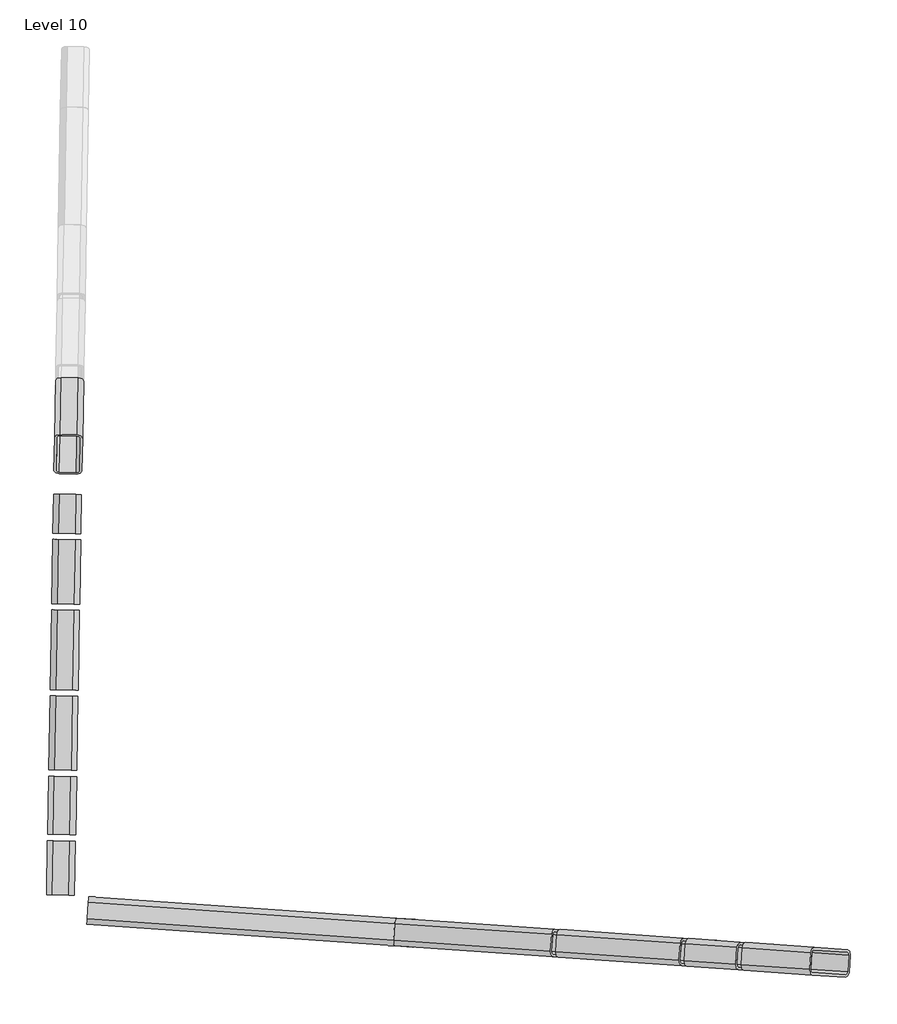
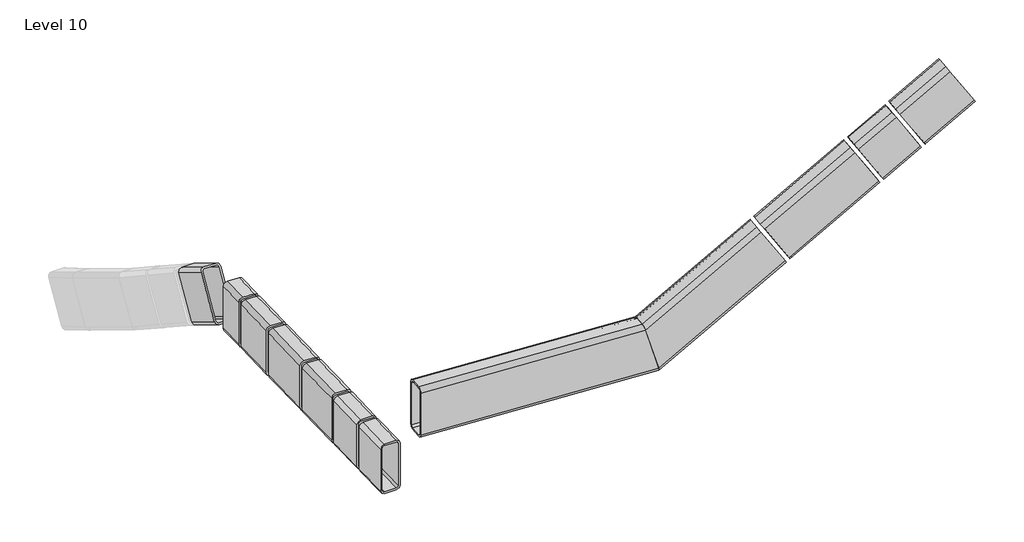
# One storey, part 1 of 2: 12 beams.
"""IFC4 building model written with IfcOpenShell, lengths in millimetres."""

from ifc_helpers import new_model, si_unit, frame, origin, place, context, project, spatial, polyline, circle_curve, ellipse_curve, transform, mapped, element, save
from ifc_brep_helpers import plane_surface, cylinder_surface, revolved_surface, advanced_brep
from components import rectangular_and_square_hollow_sections_a0dfe2d4, rectangular_and_square_hollow_sections_1cc8ef98, rectangular_and_square_hollow_sections_1d99fe36, rectangular_and_square_hollow_sections_aa6a9ac2, rectangular_and_square_hollow_sections_f138f567, rectangular_and_square_hollow_sections_edb9c2be, rectangular_and_square_hollow_sections_93e47c89, rectangular_and_square_hollow_sections_a68c0d95, rectangular_and_square_hollow_sections_c9b4ccbb, rectangular_and_square_hollow_sections_d00a390d

model = new_model("IFC4")

# Units and contexts
model_context = context("Model", 3, world=origin())
ifc_project = project(units=[si_unit("LENGTHUNIT", "METRE", prefix="MILLI")], contexts=[model_context])

# Site, building, storey
site = spatial("IfcSite", under=ifc_project)
building = spatial("IfcBuilding", under=site)
storey = spatial("IfcBuildingStorey", under=building, Name="Level 10", Elevation=289.0)

# Beams
placement = place(None, origin())
element("IfcBeam", 1, ObjectType="Rectangular and Square Hollow Sections : TREC160x60x6", at=placement, inside=storey, context=model_context, shape_type="AdvancedBrep", body=[
    advanced_brep(
    [(-746.6505809, -1195.0471365, 565.589493), (-745.8135033, -1183.0763679, 577.589493), (-743.3022702, -1147.1640621, 577.589493), (-742.4651925, -1135.1932935, 565.589493), (-742.4651925, -1135.1932935, 429.589493), (-743.3022702, -1147.1640621, 417.589493), (-745.8135033, -1183.0763679, 417.589493), (-746.6505809, -1195.0471365, 429.589493), (-743.3022702, -1147.1640621, 571.589493), (-745.8135033, -1183.0763679, 571.589493), (-746.2320421, -1189.0617522, 565.589493), (-746.2320421, -1189.0617522, 429.589493), (-745.8135033, -1183.0763679, 423.589493), (-743.3022702, -1147.1640621, 423.589493), (-742.8837314, -1141.1786778, 429.589493), (-742.8837314, -1141.1786778, 565.589493), (-85.3405322, -1241.29044, 565.589493), (-87.9360171, -1229.0796433, 577.589493), (-85.4247841, -1193.1673375, 577.589493), (-81.1551437, -1181.436597, 565.589493), (-42.252767, -1184.1569162, 429.589493), (-39.657282, -1196.367713, 417.589493), (-42.1685151, -1232.2800188, 417.589493), (-46.4381554, -1244.0107592, 429.589493), (-83.7085028, -1193.2873515, 571.589493), (-86.2197358, -1229.1996573, 571.589493), (-84.9219933, -1235.3050557, 565.589493), (-46.0196166, -1238.0253749, 429.589493), (-43.8847964, -1232.1600047, 423.589493), (-41.3735634, -1196.2476989, 423.589493), (-42.6713059, -1190.1423005, 429.589493), (-81.5736826, -1187.4219813, 565.589493)],
    [
        (0, 1, circle_curve(frame((-745.8135033, -1183.0763679, 565.589493), z_axis=(-0.997564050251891, 0.0697564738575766, 0.0), x_axis=(0.0697564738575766, 0.997564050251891, 0.0)), 12.0)),
        (1, 2),
        (2, 3, circle_curve(frame((-743.3022702, -1147.1640621, 565.589493), z_axis=(-0.997564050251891, 0.0697564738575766, 0.0), x_axis=(0.0697564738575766, 0.997564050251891, 0.0)), 12.0)),
        (3, 4),
        (4, 5, circle_curve(frame((-743.3022702, -1147.1640621, 429.589493), z_axis=(-0.997564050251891, 0.0697564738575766, 0.0), x_axis=(0.0697564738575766, 0.997564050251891, 0.0)), 12.0)),
        (5, 6),
        (6, 7, circle_curve(frame((-745.8135033, -1183.0763679, 429.589493), z_axis=(-0.997564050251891, 0.0697564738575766, 0.0), x_axis=(0.0697564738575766, 0.997564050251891, 0.0)), 12.0)),
        (7, 0),
        (8, 9),
        (9, 10, circle_curve(frame((-745.8135033, -1183.0763679, 565.589493), z_axis=(0.997564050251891, -0.0697564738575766, 0.0), x_axis=(0.0697564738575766, 0.997564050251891, 0.0)), 6.0)),
        (10, 11),
        (11, 12, circle_curve(frame((-745.8135033, -1183.0763679, 429.589493), z_axis=(0.997564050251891, -0.0697564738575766, 0.0), x_axis=(0.0697564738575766, 0.997564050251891, 0.0)), 6.0)),
        (12, 13),
        (13, 14, circle_curve(frame((-743.3022702, -1147.1640621, 429.589493), z_axis=(0.997564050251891, -0.0697564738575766, 0.0), x_axis=(0.0697564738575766, 0.997564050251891, 0.0)), 6.0)),
        (14, 15),
        (15, 8, circle_curve(frame((-743.3022702, -1147.1640621, 565.589493), z_axis=(0.997564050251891, -0.0697564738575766, 0.0), x_axis=(0.0697564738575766, 0.997564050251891, 0.0)), 6.0)),
        (0, 16),
        (16, 17, ellipse_curve(frame((-84.5034545, -1229.3196714, 565.589493), z_axis=(-0.9589201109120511, 0.06705422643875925, -0.2756373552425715), x_axis=(-0.27496591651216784, 0.01922748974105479, 0.9612616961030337)), 12.4835932, 12.0)),
        (17, 1),
        (17, 18),
        (18, 2),
        (18, 19, ellipse_curve(frame((-81.9922214, -1193.4073656, 565.589493), z_axis=(-0.9589201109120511, 0.06705422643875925, -0.2756373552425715), x_axis=(-0.27496591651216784, 0.01922748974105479, 0.9612616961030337)), 12.4835932, 12.0)),
        (19, 3),
        (19, 20),
        (20, 4),
        (20, 21, ellipse_curve(frame((-43.0898447, -1196.1276848, 429.589493), z_axis=(-0.9589201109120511, 0.06705422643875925, -0.2756373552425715), x_axis=(-0.27496591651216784, 0.01922748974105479, 0.9612616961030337)), 12.4835932, 12.0)),
        (21, 5),
        (21, 22),
        (22, 6),
        (22, 23, ellipse_curve(frame((-45.6010778, -1232.0399906, 429.589493), z_axis=(-0.9589201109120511, 0.06705422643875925, -0.2756373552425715), x_axis=(-0.27496591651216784, 0.01922748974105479, 0.9612616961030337)), 12.4835932, 12.0)),
        (23, 7),
        (23, 16),
        (8, 24),
        (24, 25),
        (25, 9),
        (25, 26, ellipse_curve(frame((-84.5034545, -1229.3196714, 565.589493), z_axis=(0.9589201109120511, -0.06705422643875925, 0.2756373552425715), x_axis=(0.27496591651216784, -0.01922748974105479, -0.9612616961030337)), 6.2417966, 6.0)),
        (26, 10),
        (26, 27),
        (27, 11),
        (27, 28, ellipse_curve(frame((-45.6010778, -1232.0399906, 429.589493), z_axis=(0.9589201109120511, -0.06705422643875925, 0.2756373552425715), x_axis=(0.27496591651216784, -0.01922748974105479, -0.9612616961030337)), 6.2417966, 6.0)),
        (28, 12),
        (28, 29),
        (29, 13),
        (29, 30, ellipse_curve(frame((-43.0898447, -1196.1276848, 429.589493), z_axis=(0.9589201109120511, -0.06705422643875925, 0.2756373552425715), x_axis=(0.27496591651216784, -0.01922748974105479, -0.9612616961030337)), 6.2417966, 6.0)),
        (30, 14),
        (30, 31),
        (31, 15),
        (31, 24, ellipse_curve(frame((-81.9922214, -1193.4073656, 565.589493), z_axis=(0.9589201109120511, -0.06705422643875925, 0.2756373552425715), x_axis=(0.27496591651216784, -0.01922748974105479, -0.9612616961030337)), 6.2417966, 6.0)),
    ],
    [
        plane_surface(frame((-744.5578867, -1165.120215, 497.589493), z_axis=(-0.997564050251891, 0.0697564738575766, 0.0), x_axis=(0.0, 0.0, 1.0))),
        cylinder_surface(frame((-745.8135033, -1183.0763679, 565.589493), z_axis=(-0.997564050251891, 0.0697564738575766, 0.0), x_axis=(0.0697564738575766, 0.997564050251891, 0.0)), 12.0),
        plane_surface(frame((-745.8135033, -1183.0763679, 577.589493), z_axis=(0.0, 0.0, 1.0), x_axis=(0.997564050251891, -0.0697564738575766, 0.0))),
        cylinder_surface(frame((-743.3022702, -1147.1640621, 565.589493), z_axis=(-0.997564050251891, 0.0697564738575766, 0.0), x_axis=(0.0697564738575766, 0.997564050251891, 0.0)), 12.0),
        plane_surface(frame((-742.4651925, -1135.1932935, 565.589493), z_axis=(0.0697564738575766, 0.997564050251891, 0.0), x_axis=(0.997564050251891, -0.0697564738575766, 0.0))),
        cylinder_surface(frame((-743.3022702, -1147.1640621, 429.589493), z_axis=(-0.997564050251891, 0.0697564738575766, 0.0), x_axis=(0.0697564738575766, 0.997564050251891, 0.0)), 12.0),
        plane_surface(frame((-743.3022702, -1147.1640621, 417.589493), z_axis=(0.0, 0.0, -1.0), x_axis=(0.997564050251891, -0.0697564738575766, 0.0))),
        cylinder_surface(frame((-745.8135033, -1183.0763679, 429.589493), z_axis=(-0.997564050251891, 0.0697564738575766, 0.0), x_axis=(0.0697564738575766, 0.997564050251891, 0.0)), 12.0),
        plane_surface(frame((-746.6505809, -1195.0471365, 429.589493), z_axis=(-0.0697564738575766, -0.997564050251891, 0.0), x_axis=(0.997564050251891, -0.0697564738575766, 0.0))),
        plane_surface(frame((-743.3022702, -1147.1640621, 571.589493), z_axis=(0.0, 0.0, -1.0), x_axis=(0.997564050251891, -0.0697564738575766, 0.0))),
        revolved_surface(polyline([(-82.3686343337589, -1223.4543011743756, 565.589493), (-745.3949644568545, -1177.0909835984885, 565.589493)]), (-745.8135033, -1183.0763679, 565.589493), (0.997564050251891, -0.0697564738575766, 0.0)),
        plane_surface(frame((-746.2320421, -1189.0617522, 565.589493), z_axis=(0.0697564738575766, 0.997564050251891, 0.0), x_axis=(0.997564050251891, -0.0697564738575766, 0.0))),
        revolved_surface(polyline([(-43.466257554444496, -1226.1746203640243, 429.589493), (-745.3949644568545, -1177.0909835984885, 429.589493)]), (-745.8135033, -1183.0763679, 429.589493), (0.997564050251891, -0.0697564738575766, 0.0)),
        plane_surface(frame((-745.8135033, -1183.0763679, 423.589493), z_axis=(0.0, 0.0, 1.0), x_axis=(0.997564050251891, -0.0697564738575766, 0.0))),
        revolved_surface(polyline([(-40.9550245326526, -1190.2623145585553, 429.589493), (-742.8837313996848, -1141.1786777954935, 429.589493)]), (-743.3022702, -1147.1640621, 429.589493), (0.997564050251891, -0.0697564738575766, 0.0)),
        plane_surface(frame((-742.8837314, -1141.1786778, 429.589493), z_axis=(-0.0697564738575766, -0.997564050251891, 0.0), x_axis=(0.997564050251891, -0.0697564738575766, 0.0))),
        revolved_surface(polyline([(-79.85740123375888, -1187.5419953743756, 565.589493), (-742.8837313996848, -1141.1786777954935, 565.589493)]), (-743.3022702, -1147.1640621, 565.589493), (0.997564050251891, -0.0697564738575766, 0.0)),
        plane_surface(frame((-86.6804006, -1211.1234904, 577.589493), z_axis=(0.9589201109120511, -0.06705422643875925, 0.2756373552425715), x_axis=(0.2836762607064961, 0.22666558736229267, -0.9317459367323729))),
    ],
    [
        (0, [[1, 2, 3, 4, 5, 6, 7, 8], [9, 10, 11, 12, 13, 14, 15, 16]]),
        (1, [[-1, 17, 18, 19]]),
        (2, [[-2, -19, 20, 21]]),
        (3, [[-3, -21, 22, 23]]),
        (4, [[-4, -23, 24, 25]]),
        (5, [[-5, -25, 26, 27]]),
        (6, [[-6, -27, 28, 29]]),
        (7, [[-7, -29, 30, 31]]),
        (8, [[-8, -31, 32, -17]]),
        (9, [[-9, 33, 34, 35]]),
        (10, [[-10, -35, 36, 37]]),
        (11, [[-11, -37, 38, 39]]),
        (12, [[-12, -39, 40, 41]]),
        (13, [[-13, -41, 42, 43]]),
        (14, [[-14, -43, 44, 45]]),
        (15, [[-15, -45, 46, 47]]),
        (16, [[-16, -47, 48, -33]]),
        (17, [[-32, -30, -28, -26, -24, -22, -20, -18], [-48, -46, -44, -42, -40, -38, -36, -34]]),
    ],
),
])
element("IfcBeam", 2, ObjectType="Rectangular and Square Hollow Sections : TREC160x60x6", at=placement, inside=storey, context=model_context, shape_type="AdvancedBrep", body=[
    advanced_brep(
    [(254.3777301, -1265.0458552, 778.3873878), (326.2711934, -1270.0731359, 663.0528466), (333.4518119, -1258.5459509, 652.8762695), (335.963045, -1222.633645, 652.8762695), (330.4565818, -1210.2192928, 663.0528466), (258.5631185, -1205.1920121, 778.3873878), (251.3824999, -1216.7191972, 788.5639649), (248.8712669, -1252.631503, 788.5639649), (254.5542704, -1216.940989, 783.4756764), (258.1445797, -1211.1773964, 778.3873878), (330.038043, -1216.2046772, 663.0528466), (332.7912745, -1222.4118532, 657.964558), (330.2800415, -1258.3241591, 657.964558), (326.6897322, -1264.0877516, 663.0528466), (254.7962689, -1259.0604709, 778.3873878), (252.0430373, -1252.8532948, 783.4756764), (-87.9360171, -1229.0796433, 577.589493), (-85.3405322, -1241.29044, 565.589493), (-85.4247841, -1193.1673375, 577.589493), (-81.1551437, -1181.436597, 565.589493), (-42.252767, -1184.1569162, 429.589493), (-39.657282, -1196.367713, 417.589493), (-42.1685151, -1232.2800188, 417.589493), (-46.4381554, -1244.0107592, 429.589493), (-86.2197358, -1229.1996573, 571.589493), (-83.7085028, -1193.2873515, 571.589493), (-84.9219933, -1235.3050557, 565.589493), (-46.0196166, -1238.0253749, 429.589493), (-43.8847964, -1232.1600047, 423.589493), (-41.3735634, -1196.2476989, 423.589493), (-42.6713058, -1190.1423005, 429.589493), (-81.5736826, -1187.4219813, 565.589493)],
    [
        (0, 1),
        (1, 2, circle_curve(frame((327.108271, -1258.1023673, 663.0528466), z_axis=(0.8459822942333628, -0.05915684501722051, 0.5299192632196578), x_axis=(0.06975647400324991, 0.9975640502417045, 0.0)), 12.0)),
        (2, 3),
        (3, 4, circle_curve(frame((329.6195041, -1222.1900615, 663.0528466), z_axis=(0.8459822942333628, -0.05915684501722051, 0.5299192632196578), x_axis=(0.06975647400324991, 0.9975640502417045, 0.0)), 12.0)),
        (4, 5),
        (5, 6, circle_curve(frame((257.7260408, -1217.1627807, 778.3873878), z_axis=(0.8459822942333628, -0.05915684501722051, 0.5299192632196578), x_axis=(0.06975647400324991, 0.9975640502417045, 0.0)), 12.0)),
        (6, 7),
        (7, 0, circle_curve(frame((255.2148078, -1253.0750866, 778.3873878), z_axis=(0.8459822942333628, -0.05915684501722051, 0.5299192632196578), x_axis=(0.06975647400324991, 0.9975640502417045, 0.0)), 12.0)),
        (8, 9, circle_curve(frame((257.7260408, -1217.1627807, 778.3873878), z_axis=(-0.8459822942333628, 0.05915684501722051, -0.5299192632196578), x_axis=(0.06975647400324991, 0.9975640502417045, 0.0)), 6.0)),
        (9, 10),
        (10, 11, circle_curve(frame((329.6195041, -1222.1900615, 663.0528466), z_axis=(-0.8459822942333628, 0.05915684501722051, -0.5299192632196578), x_axis=(0.06975647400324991, 0.9975640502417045, 0.0)), 6.0)),
        (11, 12),
        (12, 13, circle_curve(frame((327.108271, -1258.1023673, 663.0528466), z_axis=(-0.8459822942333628, 0.05915684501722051, -0.5299192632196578), x_axis=(0.06975647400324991, 0.9975640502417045, 0.0)), 6.0)),
        (13, 14),
        (14, 15, circle_curve(frame((255.2148078, -1253.0750866, 778.3873878), z_axis=(-0.8459822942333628, 0.05915684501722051, -0.5299192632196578), x_axis=(0.06975647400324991, 0.9975640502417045, 0.0)), 6.0)),
        (15, 8),
        (16, 17, ellipse_curve(frame((-84.5034545, -1229.3196714, 565.589493), z_axis=(0.958920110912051, -0.06705422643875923, 0.2756373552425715), x_axis=(0.2749659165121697, -0.019227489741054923, -0.9612616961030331)), 12.4835932, 12.0)),
        (17, 0),
        (7, 16),
        (18, 16),
        (6, 18),
        (19, 18, ellipse_curve(frame((-81.9922214, -1193.4073656, 565.589493), z_axis=(0.958920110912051, -0.06705422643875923, 0.2756373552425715), x_axis=(0.2749659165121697, -0.019227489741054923, -0.9612616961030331)), 12.4835932, 12.0)),
        (5, 19),
        (20, 19),
        (4, 20),
        (21, 20, ellipse_curve(frame((-43.0898447, -1196.1276848, 429.589493), z_axis=(0.958920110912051, -0.06705422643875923, 0.2756373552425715), x_axis=(0.2749659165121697, -0.019227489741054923, -0.9612616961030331)), 12.4835932, 12.0)),
        (3, 21),
        (22, 21),
        (2, 22),
        (23, 22, ellipse_curve(frame((-45.6010778, -1232.0399906, 429.589493), z_axis=(0.958920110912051, -0.06705422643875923, 0.2756373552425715), x_axis=(0.2749659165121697, -0.019227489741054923, -0.9612616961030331)), 12.4835932, 12.0)),
        (1, 23),
        (17, 23),
        (24, 25),
        (25, 8),
        (15, 24),
        (26, 24, ellipse_curve(frame((-84.5034545, -1229.3196714, 565.589493), z_axis=(-0.958920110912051, 0.06705422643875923, -0.2756373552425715), x_axis=(-0.2749659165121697, 0.019227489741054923, 0.9612616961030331)), 6.2417966, 6.0)),
        (14, 26),
        (27, 26),
        (13, 27),
        (28, 27, ellipse_curve(frame((-45.6010778, -1232.0399906, 429.589493), z_axis=(-0.958920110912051, 0.06705422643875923, -0.2756373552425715), x_axis=(-0.2749659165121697, 0.019227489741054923, 0.9612616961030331)), 6.2417966, 6.0)),
        (12, 28),
        (29, 28),
        (11, 29),
        (30, 29, ellipse_curve(frame((-43.0898447, -1196.1276848, 429.589493), z_axis=(-0.958920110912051, 0.06705422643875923, -0.2756373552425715), x_axis=(-0.2749659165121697, 0.019227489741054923, 0.9612616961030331)), 6.2417966, 6.0)),
        (10, 30),
        (31, 30),
        (9, 31),
        (25, 31, ellipse_curve(frame((-81.9922214, -1193.4073656, 565.589493), z_axis=(-0.958920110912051, 0.06705422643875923, -0.2756373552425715), x_axis=(-0.2749659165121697, 0.019227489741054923, 0.9612616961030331)), 6.2417966, 6.0)),
    ],
    [
        plane_surface(frame((292.4171559, -1237.632574, 720.7201172), z_axis=(0.8459822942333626, -0.05915684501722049, 0.5299192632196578), x_axis=(-0.5286284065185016, 0.03696529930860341, 0.8480480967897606))),
        cylinder_surface(frame((-100.9437381, -1228.1700548, 555.291378), z_axis=(-0.8459822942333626, 0.059156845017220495, -0.5299192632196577), x_axis=(0.06975647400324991, 0.9975640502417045, 0.0)), 12.0),
        plane_surface(frame((-107.287279, -1227.7264712, 565.4679551), z_axis=(-0.5286284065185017, 0.03696529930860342, 0.8480480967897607), x_axis=(0.8459822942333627, -0.0591568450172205, 0.5299192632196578))),
        cylinder_surface(frame((-98.432505, -1192.257749, 555.291378), z_axis=(-0.8459822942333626, 0.059156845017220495, -0.5299192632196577), x_axis=(0.06975647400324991, 0.9975640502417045, 0.0)), 12.0),
        plane_surface(frame((-97.5954274, -1180.2869804, 555.291378), z_axis=(0.06975647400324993, 0.9975640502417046, 0.0), x_axis=(0.8459822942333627, -0.0591568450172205, 0.5299192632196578))),
        cylinder_surface(frame((-26.5390418, -1197.2850297, 439.9568368), z_axis=(-0.8459822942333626, 0.059156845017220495, -0.5299192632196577), x_axis=(0.06975647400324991, 0.9975640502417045, 0.0)), 12.0),
        plane_surface(frame((-20.1955009, -1197.7286133, 429.7802596), z_axis=(0.5286284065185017, -0.03696529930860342, -0.8480480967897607), x_axis=(0.8459822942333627, -0.0591568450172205, 0.5299192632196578))),
        cylinder_surface(frame((-29.0502748, -1233.1973355, 439.9568368), z_axis=(-0.8459822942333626, 0.059156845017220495, -0.5299192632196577), x_axis=(0.06975647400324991, 0.9975640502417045, 0.0)), 12.0),
        plane_surface(frame((-29.8873525, -1245.1681041, 439.9568368), z_axis=(-0.06975647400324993, -0.9975640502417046, 0.0), x_axis=(0.8459822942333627, -0.0591568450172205, 0.5299192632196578))),
        plane_surface(frame((-101.6042755, -1192.0359572, 560.3796665), z_axis=(0.5286284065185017, -0.03696529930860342, -0.8480480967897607), x_axis=(0.8459822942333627, -0.0591568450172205, 0.5299192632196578))),
        revolved_surface(polyline([(255.6333466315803, -1247.0897022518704, 778.3873878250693), (-85.54040477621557, -1223.2325094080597, 564.6777815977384)]), (-100.9437381, -1228.1700548, 555.291378), (0.8459822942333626, -0.059156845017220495, 0.5299192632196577)),
        plane_surface(frame((-101.362277, -1234.1554391, 555.291378), z_axis=(0.06975647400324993, 0.9975640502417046, 0.0), x_axis=(0.8459822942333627, -0.0591568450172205, 0.5299192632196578))),
        revolved_surface(polyline([(327.52680989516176, -1252.116982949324, 663.0528466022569), (-46.63802804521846, -1225.9528285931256, 428.6777815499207)]), (-29.0502748, -1233.1973355, 439.9568368), (0.8459822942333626, -0.059156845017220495, 0.5299192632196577)),
        plane_surface(frame((-25.8785044, -1233.4191273, 434.8685482), z_axis=(-0.5286284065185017, 0.03696529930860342, 0.8480480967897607), x_axis=(0.8459822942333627, -0.0591568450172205, 0.5299192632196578))),
        revolved_surface(polyline([(330.03804297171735, -1216.2046771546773, 663.0528466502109), (-44.12679499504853, -1190.0405227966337, 428.67778158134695)]), (-26.5390418, -1197.2850297, 439.9568368), (0.8459822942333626, -0.059156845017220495, 0.5299192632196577)),
        plane_surface(frame((-26.1205029, -1191.2996454, 439.9568368), z_axis=(-0.06975647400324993, -0.9975640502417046, 0.0), x_axis=(0.8459822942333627, -0.0591568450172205, 0.5299192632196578))),
        revolved_surface(polyline([(258.14457969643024, -1211.1773964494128, 778.3873878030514), (-83.02917167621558, -1187.32020360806, 564.6777815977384)]), (-98.432505, -1192.257749, 555.291378), (0.8459822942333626, -0.059156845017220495, 0.5299192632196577)),
        plane_surface(frame((-86.6804006, -1211.1234904, 577.589493), z_axis=(-0.958920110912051, 0.06705422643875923, -0.2756373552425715), x_axis=(0.2836762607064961, 0.22666558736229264, -0.9317459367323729))),
    ],
    [
        (0, [[1, 2, 3, 4, 5, 6, 7, 8], [9, 10, 11, 12, 13, 14, 15, 16]]),
        (1, [[17, 18, -8, 19]]),
        (2, [[20, -19, -7, 21]]),
        (3, [[22, -21, -6, 23]]),
        (4, [[24, -23, -5, 25]]),
        (5, [[26, -25, -4, 27]]),
        (6, [[28, -27, -3, 29]]),
        (7, [[30, -29, -2, 31]]),
        (8, [[32, -31, -1, -18]]),
        (9, [[33, 34, -16, 35]]),
        (10, [[36, -35, -15, 37]]),
        (11, [[38, -37, -14, 39]]),
        (12, [[40, -39, -13, 41]]),
        (13, [[42, -41, -12, 43]]),
        (14, [[44, -43, -11, 45]]),
        (15, [[46, -45, -10, 47]]),
        (16, [[48, -47, -9, -34]]),
        (17, [[-17, -20, -22, -24, -26, -28, -30, -32], [-33, -36, -38, -40, -42, -44, -46, -48]]),
    ],
),
])
rectangular_and_square_hollow_sections_shape = rectangular_and_square_hollow_sections_a0dfe2d4(model_context)
element("IfcBeam", 3, ObjectType="Rectangular and Square Hollow Sections : TREC160x60x6", at=placement, inside=storey, context=model_context, shape_type="MappedRepresentation", body=[
    mapped(rectangular_and_square_hollow_sections_shape, transform((-797.2179566, -790.6387591, 307.634199), x_axis=(0.017449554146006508, 0.999847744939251, 0.0), y_axis=(-0.999847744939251, 0.017449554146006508, 0.0), z_axis=(0.0, 0.0, 1.0))),
])
rectangular_and_square_hollow_sections_2_shape = rectangular_and_square_hollow_sections_1cc8ef98(model_context)
element("IfcBeam", 4, ObjectType="Rectangular and Square Hollow Sections : TREC160x60x6", at=placement, inside=storey, context=model_context, shape_type="MappedRepresentation", body=[
    mapped(rectangular_and_square_hollow_sections_2_shape, transform((-791.0553271, -437.8296431, 307.634199), x_axis=(0.017452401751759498, 0.9998476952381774, 0.0), y_axis=(-0.9998476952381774, 0.017452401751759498, 0.0), z_axis=(0.0, 0.0, 1.0))),
])
rectangular_and_square_hollow_sections_3_shape = rectangular_and_square_hollow_sections_1d99fe36(model_context)
element("IfcBeam", 5, ObjectType="Rectangular and Square Hollow Sections : TREC160x60x6", at=placement, inside=storey, context=model_context, shape_type="MappedRepresentation", body=[
    mapped(rectangular_and_square_hollow_sections_3_shape, transform((-799.9316141, -946.2349826, 307.634199), x_axis=(-0.017423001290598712, -0.9998482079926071, 0.0), y_axis=(0.9998482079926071, -0.017423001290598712, 0.0), z_axis=(0.0, 0.0, 1.0))),
])
rectangular_and_square_hollow_sections_4_shape = rectangular_and_square_hollow_sections_aa6a9ac2(model_context)
element("IfcBeam", 6, ObjectType="Rectangular and Square Hollow Sections : TREC160x60x6", at=placement, inside=storey, context=model_context, shape_type="MappedRepresentation", body=[
    mapped(rectangular_and_square_hollow_sections_4_shape, transform((-802.1538811, -1073.6653346, 307.634199), x_axis=(-0.017452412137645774, -0.999847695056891, 0.0), y_axis=(0.999847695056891, -0.017452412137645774, 0.0), z_axis=(0.0, 0.0, 1.0))),
])
rectangular_and_square_hollow_sections_5_shape = rectangular_and_square_hollow_sections_f138f567(model_context)
element("IfcBeam", 7, ObjectType="Rectangular and Square Hollow Sections : TREC160x60x6", at=placement, inside=storey, context=model_context, shape_type="MappedRepresentation", body=[
    mapped(rectangular_and_square_hollow_sections_5_shape, transform((769.8177534, -1271.0156756, 1019.7615695), x_axis=(-0.8459822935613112, 0.059156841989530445, -0.5299192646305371), y_axis=(-0.06975647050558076, -0.9975640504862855, 0.0), z_axis=(-0.5286284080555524, 0.03696529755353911, 0.8480480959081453))),
])
rectangular_and_square_hollow_sections_6_shape = rectangular_and_square_hollow_sections_edb9c2be(model_context)
element("IfcBeam", 8, ObjectType="Rectangular and Square Hollow Sections : TREC160x60x6", at=placement, inside=storey, context=model_context, shape_type="MappedRepresentation", body=[
    mapped(rectangular_and_square_hollow_sections_6_shape, transform((635.0019449, -1261.5884361, 935.3135915), x_axis=(-0.8459822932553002, 0.05915684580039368, -0.5299192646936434), y_axis=(-0.06975647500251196, -0.9975640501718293, 0.0), z_axis=(-0.5286284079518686, 0.03696529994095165, 0.8480480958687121))),
])
rectangular_and_square_hollow_sections_7_shape = rectangular_and_square_hollow_sections_93e47c89(model_context)
element("IfcBeam", 9, ObjectType="Rectangular and Square Hollow Sections : TREC160x60x6", at=placement, inside=storey, context=model_context, shape_type="MappedRepresentation", body=[
    mapped(rectangular_and_square_hollow_sections_7_shape, transform((-785.5176476, -133.5185906, 256.170512), x_axis=(-0.017145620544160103, -0.8497693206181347, 0.526875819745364), y_axis=(0.9997965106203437, -0.020172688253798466, 0.0), z_axis=(0.010628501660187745, 0.5267686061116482, 0.8499422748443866))),
])
rectangular_and_square_hollow_sections_8_shape = rectangular_and_square_hollow_sections_a68c0d95(model_context)
element("IfcBeam", 10, ObjectType="Rectangular and Square Hollow Sections : TREC160x60x6", at=placement, inside=storey, context=model_context, shape_type="MappedRepresentation", body=[
    mapped(rectangular_and_square_hollow_sections_8_shape, transform((-793.9888421, -605.7597136, 307.634199), x_axis=(0.01747557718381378, 0.9998472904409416, 0.0), y_axis=(-0.9998472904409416, 0.01747557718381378, 0.0), z_axis=(0.0, 0.0, 1.0))),
])
rectangular_and_square_hollow_sections_9_shape = rectangular_and_square_hollow_sections_c9b4ccbb(model_context)
element("IfcBeam", 11, ObjectType="Rectangular and Square Hollow Sections : TREC160x60x6", at=placement, inside=storey, context=model_context, shape_type="MappedRepresentation", body=[
    mapped(rectangular_and_square_hollow_sections_9_shape, transform((-788.5185331, -292.4967656, 307.634199), x_axis=(0.017452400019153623, 0.99984769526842, 0.0), y_axis=(-0.99984769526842, 0.017452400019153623, 0.0), z_axis=(0.0, 0.0, 1.0))),
])
rectangular_and_square_hollow_sections_10_shape = rectangular_and_square_hollow_sections_d00a390d(model_context)
element("IfcBeam", 12, ObjectType="Rectangular and Square Hollow Sections : TREC160x60x6", at=placement, inside=storey, context=model_context, shape_type="MappedRepresentation", body=[
    mapped(rectangular_and_square_hollow_sections_10_shape, transform((441.4409189, -1248.0533306, 814.06789), x_axis=(-0.845982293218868, 0.059156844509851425, -0.5299192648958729), y_axis=(-0.06975647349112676, -0.9975640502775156, 0.0), z_axis=(-0.5286284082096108, 0.03696529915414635, 0.8480480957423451))),
])

save(model, "model.ifc")
